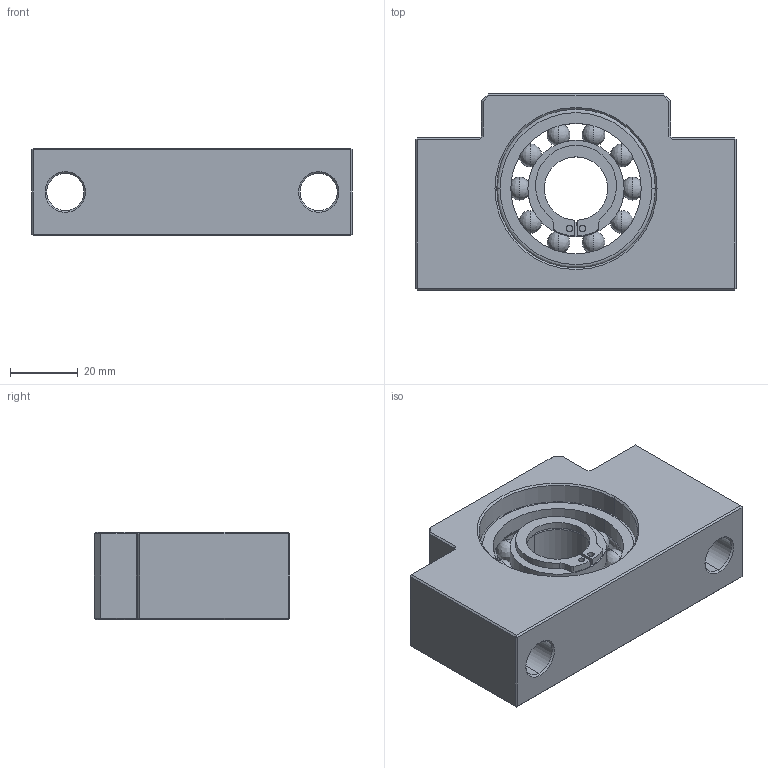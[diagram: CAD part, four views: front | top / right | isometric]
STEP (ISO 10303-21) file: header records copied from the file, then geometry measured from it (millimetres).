
FILE_DESCRIPTION (( 'STEP AP203' ), '1' );
FILE_NAME ('AF20.STEP', '2009-05-22T10:00:13', ( '冠犁泅' ), ( '俺惯何' ), 'SwSTEP 2.0', 'SolidWorks 2007', '' );
FILE_SCHEMA (( 'CONFIG_CONTROL_DESIGN' ));
Length unit declared in the file: millimetre
Products named in the file (4): Heavy Duty External Retaining Ring_am_B27.8M - 3DM1-20_B27.8M - 3DM1-20; 6204_ル遽; SAF20_BODY_晦獄 撲薑; AF20
Assembly tree (3 placements, depth 2):
  AF20
    6204_ル遽
    Heavy Duty External Retaining Ring_am_B27.8M - 3DM1-20_B27.8M - 3DM1-20
    SAF20_BODY_晦獄 撲薑
Bounding box: 95 x 58 x 26 mm (x, y, z)
Volume: 86035.7 mm3; surface area: 30936.8 mm2
Topology: 14 solids, 14 shells, 146 faces, 348 edges, 190 vertices
Faces by surface type: plane 60, cylinder 38, bspline 36, cone 12
Entity records: 5084 total; most frequent: CARTESIAN_POINT 1570, DIRECTION 668, ORIENTED_EDGE 616, EDGE_CURVE 308, AXIS2_PLACEMENT_3D 250, VERTEX_POINT 190, VECTOR 168, LINE 168
